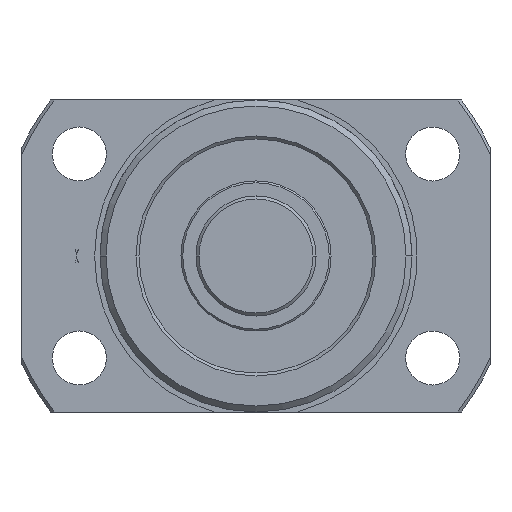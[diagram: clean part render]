
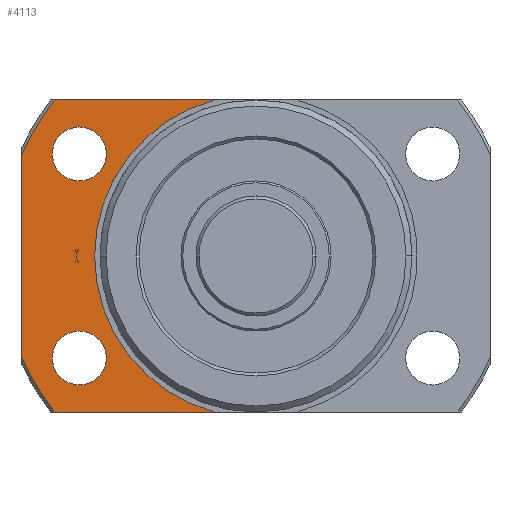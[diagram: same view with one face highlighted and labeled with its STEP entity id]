
A CAD part, left-side view. The second image highlights one B-rep face of the part: STEP entity #4113.
In plain terms, the highlighted planar face has unit normal (-1, 0, 0).
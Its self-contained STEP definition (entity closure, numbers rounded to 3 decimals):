
#316 = CIRCLE ( 'NONE', #3065, 4.5 ) ;
#328 = CIRCLE ( 'NONE', #3069, 4.5 ) ;
#358 = CIRCLE ( 'NONE', #3079, 26.9 ) ;
#601 = VERTEX_POINT ( 'NONE', #3800 ) ;
#602 = VERTEX_POINT ( 'NONE', #3794 ) ;
#609 = VERTEX_POINT ( 'NONE', #3788 ) ;
#610 = VERTEX_POINT ( 'NONE', #3787 ) ;
#629 = VERTEX_POINT ( 'NONE', #3768 ) ;
#632 = VERTEX_POINT ( 'NONE', #3765 ) ;
#1561 = EDGE_LOOP ( 'NONE', ( #5213, #5214 ) ) ;
#1580 = EDGE_LOOP ( 'NONE', ( #5206, #5207, #5208, #5209, #5210, #5211, #5212 ) ) ;
#1590 = EDGE_LOOP ( 'NONE', ( #5215, #5216 ) ) ;
#1752 = CARTESIAN_POINT ( 'NONE',  ( -15., 39., -16.889 ) ) ;
#1753 = CARTESIAN_POINT ( 'NONE',  ( -15., 33.619, 26. ) ) ;
#1767 = CARTESIAN_POINT ( 'NONE',  ( -15., 39., 16.889 ) ) ;
#1771 = CARTESIAN_POINT ( 'NONE',  ( -15., 6.9, -26. ) ) ;
#1773 = CARTESIAN_POINT ( 'NONE',  ( -15., 33.619, -26. ) ) ;
#1950 = CARTESIAN_POINT ( 'NONE',  ( -15., 0., 0. ) ) ;
#1951 = DIRECTION ( 'NONE',  ( 1., 0., 0. ) ) ;
#1952 = DIRECTION ( 'NONE',  ( 0., 1., 0. ) ) ;
#2431 = DIRECTION ( 'NONE',  ( -1., 0., 0. ) ) ;
#2436 = CARTESIAN_POINT ( 'NONE',  ( -15., 26.9, 0. ) ) ;
#2437 = PLANE ( 'NONE',  #3657 ) ;
#2438 = DIRECTION ( 'NONE',  ( 0., -1., 0. ) ) ;
#2956 = VERTEX_POINT ( 'NONE', #1771 ) ;
#2964 = VERTEX_POINT ( 'NONE', #1773 ) ;
#2996 = VERTEX_POINT ( 'NONE', #1767 ) ;
#3001 = VERTEX_POINT ( 'NONE', #1753 ) ;
#3006 = VERTEX_POINT ( 'NONE', #1752 ) ;
#3065 = AXIS2_PLACEMENT_3D ( 'NONE', #4975, #4976, #4977 ) ;
#3069 = AXIS2_PLACEMENT_3D ( 'NONE', #4995, #4996, #4997 ) ;
#3079 = AXIS2_PLACEMENT_3D ( 'NONE', #1950, #1951, #1952 ) ;
#3557 = AXIS2_PLACEMENT_3D ( 'NONE', #5379, #5377, #5376 ) ;
#3559 = AXIS2_PLACEMENT_3D ( 'NONE', #3703, #3691, #3700 ) ;
#3560 = AXIS2_PLACEMENT_3D ( 'NONE', #3684, #3714, #3710 ) ;
#3561 = AXIS2_PLACEMENT_3D ( 'NONE', #3705, #3704, #3702 ) ;
#3562 = AXIS2_PLACEMENT_3D ( 'NONE', #3699, #3698, #3697 ) ;
#3657 = AXIS2_PLACEMENT_3D ( 'NONE', #2436, #2431, #2438 ) ;
#3684 = CARTESIAN_POINT ( 'NONE',  ( -15., 0., 0. ) ) ;
#3685 = CARTESIAN_POINT ( 'NONE',  ( -15., 26.9, -26. ) ) ;
#3691 = DIRECTION ( 'NONE',  ( 1., 0., 0. ) ) ;
#3696 = DIRECTION ( 'NONE',  ( 0., 0., -1. ) ) ;
#3697 = DIRECTION ( 'NONE',  ( 0., -1., 0. ) ) ;
#3698 = DIRECTION ( 'NONE',  ( -1., 0., 0. ) ) ;
#3699 = CARTESIAN_POINT ( 'NONE',  ( -15., 29.445, -17. ) ) ;
#3700 = DIRECTION ( 'NONE',  ( 0., 1., 0. ) ) ;
#3701 = CARTESIAN_POINT ( 'NONE',  ( -15., 39., 0. ) ) ;
#3702 = DIRECTION ( 'NONE',  ( 0., -1., 0. ) ) ;
#3703 = CARTESIAN_POINT ( 'NONE',  ( -15., 0., 0. ) ) ;
#3704 = DIRECTION ( 'NONE',  ( -1., 0., 0. ) ) ;
#3705 = CARTESIAN_POINT ( 'NONE',  ( -15., 29.445, 17. ) ) ;
#3706 = DIRECTION ( 'NONE',  ( 0., -1., 0. ) ) ;
#3709 = DIRECTION ( 'NONE',  ( 0., 1., 0. ) ) ;
#3710 = DIRECTION ( 'NONE',  ( 0., 1., 0. ) ) ;
#3711 = CARTESIAN_POINT ( 'NONE',  ( -15., 26.9, 26. ) ) ;
#3714 = DIRECTION ( 'NONE',  ( 1., 0., 0. ) ) ;
#3765 = CARTESIAN_POINT ( 'NONE',  ( -15., 6.9, 26. ) ) ;
#3768 = CARTESIAN_POINT ( 'NONE',  ( -15., 26.9, 0. ) ) ;
#3787 = CARTESIAN_POINT ( 'NONE',  ( -15., 29.445, -12.5 ) ) ;
#3788 = CARTESIAN_POINT ( 'NONE',  ( -15., 29.445, -21.5 ) ) ;
#3794 = CARTESIAN_POINT ( 'NONE',  ( -15., 29.445, 21.5 ) ) ;
#3800 = CARTESIAN_POINT ( 'NONE',  ( -15., 29.445, 12.5 ) ) ;
#3981 = EDGE_CURVE ( 'NONE', #2956, #629, #4252, .T. ) ;
#3986 = EDGE_CURVE ( 'NONE', #632, #3001, #4260, .T. ) ;
#3987 = EDGE_CURVE ( 'NONE', #2996, #3001, #4262, .T. ) ;
#3988 = EDGE_CURVE ( 'NONE', #2996, #3006, #4259, .T. ) ;
#3989 = EDGE_CURVE ( 'NONE', #2964, #3006, #4265, .T. ) ;
#3990 = EDGE_CURVE ( 'NONE', #2964, #2956, #4264, .T. ) ;
#3991 = EDGE_CURVE ( 'NONE', #602, #601, #4268, .T. ) ;
#3992 = EDGE_CURVE ( 'NONE', #610, #609, #4267, .T. ) ;
#4113 = ADVANCED_FACE ( 'NONE', ( #4433, #4434, #4432 ), #2437, .T. ) ;
#4252 = CIRCLE ( 'NONE', #3557, 26.9 ) ;
#4259 = LINE ( 'NONE', #3701, #4266 ) ;
#4260 = LINE ( 'NONE', #3711, #4263 ) ;
#4262 = CIRCLE ( 'NONE', #3559, 42.5 ) ;
#4263 = VECTOR ( 'NONE', #3709, 1000. ) ;
#4264 = LINE ( 'NONE', #3685, #4269 ) ;
#4265 = CIRCLE ( 'NONE', #3560, 42.5 ) ;
#4266 = VECTOR ( 'NONE', #3696, 1000. ) ;
#4267 = CIRCLE ( 'NONE', #3562, 4.5 ) ;
#4268 = CIRCLE ( 'NONE', #3561, 4.5 ) ;
#4269 = VECTOR ( 'NONE', #3706, 1000. ) ;
#4432 = FACE_BOUND ( 'NONE', #1590, .T. ) ;
#4433 = FACE_OUTER_BOUND ( 'NONE', #1580, .T. ) ;
#4434 = FACE_BOUND ( 'NONE', #1561, .T. ) ;
#4564 = EDGE_CURVE ( 'NONE', #601, #602, #316, .T. ) ;
#4572 = EDGE_CURVE ( 'NONE', #609, #610, #328, .T. ) ;
#4592 = EDGE_CURVE ( 'NONE', #629, #632, #358, .T. ) ;
#4975 = CARTESIAN_POINT ( 'NONE',  ( -15., 29.445, 17. ) ) ;
#4976 = DIRECTION ( 'NONE',  ( -1., 0., 0. ) ) ;
#4977 = DIRECTION ( 'NONE',  ( 0., -1., 0. ) ) ;
#4995 = CARTESIAN_POINT ( 'NONE',  ( -15., 29.445, -17. ) ) ;
#4996 = DIRECTION ( 'NONE',  ( -1., 0., 0. ) ) ;
#4997 = DIRECTION ( 'NONE',  ( 0., -1., 0. ) ) ;
#5206 = ORIENTED_EDGE ( 'NONE', *, *, #3986, .T. ) ;
#5207 = ORIENTED_EDGE ( 'NONE', *, *, #3987, .F. ) ;
#5208 = ORIENTED_EDGE ( 'NONE', *, *, #3988, .T. ) ;
#5209 = ORIENTED_EDGE ( 'NONE', *, *, #3989, .F. ) ;
#5210 = ORIENTED_EDGE ( 'NONE', *, *, #3990, .T. ) ;
#5211 = ORIENTED_EDGE ( 'NONE', *, *, #3981, .T. ) ;
#5212 = ORIENTED_EDGE ( 'NONE', *, *, #4592, .T. ) ;
#5213 = ORIENTED_EDGE ( 'NONE', *, *, #4564, .F. ) ;
#5214 = ORIENTED_EDGE ( 'NONE', *, *, #3991, .F. ) ;
#5215 = ORIENTED_EDGE ( 'NONE', *, *, #4572, .F. ) ;
#5216 = ORIENTED_EDGE ( 'NONE', *, *, #3992, .F. ) ;
#5376 = DIRECTION ( 'NONE',  ( 0., 1., 0. ) ) ;
#5377 = DIRECTION ( 'NONE',  ( 1., 0., 0. ) ) ;
#5379 = CARTESIAN_POINT ( 'NONE',  ( -15., 0., 0. ) ) ;
